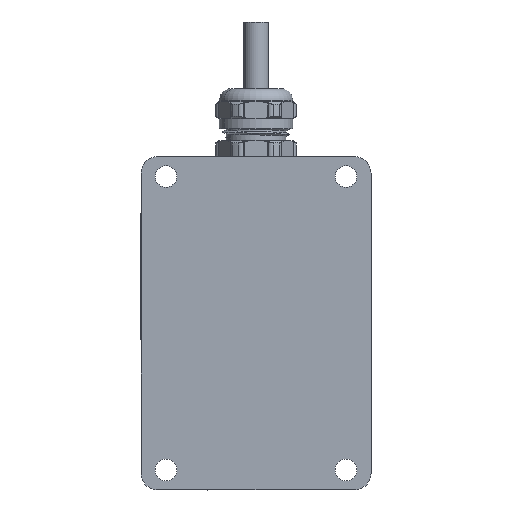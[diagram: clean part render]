
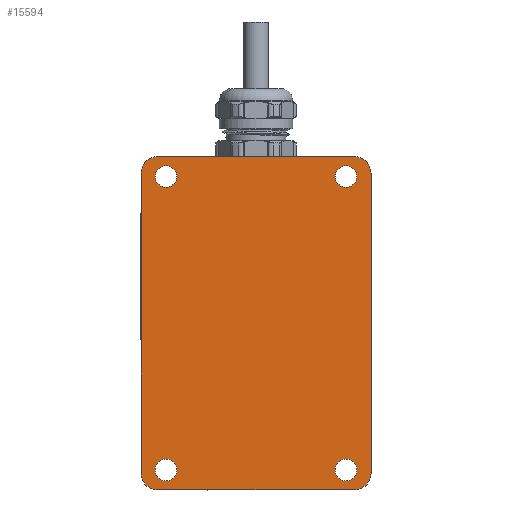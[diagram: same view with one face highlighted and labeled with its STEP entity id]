
A CAD part, front view. The second image highlights one B-rep face of the part: STEP entity #15594.
In plain terms, the highlighted planar face has unit normal (0, -1, 0).
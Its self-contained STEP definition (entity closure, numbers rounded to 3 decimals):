
#225 = VERTEX_POINT ( 'NONE', #19039 ) ;
#244 = ORIENTED_EDGE ( 'NONE', *, *, #6378, .T. ) ;
#253 = VERTEX_POINT ( 'NONE', #12921 ) ;
#463 = VERTEX_POINT ( 'NONE', #26951 ) ;
#688 = CARTESIAN_POINT ( 'NONE',  ( -27., -3., 47.25 ) ) ;
#712 = ORIENTED_EDGE ( 'NONE', *, *, #1375, .T. ) ;
#1023 = CARTESIAN_POINT ( 'NONE',  ( -27., -3., 44. ) ) ;
#1076 = VERTEX_POINT ( 'NONE', #9914 ) ;
#1235 = EDGE_CURVE ( 'NONE', #20839, #23333, #21232, .T. ) ;
#1267 = FACE_OUTER_BOUND ( 'NONE', #6906, .T. ) ;
#1375 = EDGE_CURVE ( 'NONE', #1905, #12542, #13140, .T. ) ;
#1400 = DIRECTION ( 'NONE',  ( 0., -1., 0. ) ) ;
#1722 = LINE ( 'NONE', #16086, #23639 ) ;
#1905 = VERTEX_POINT ( 'NONE', #7802 ) ;
#1988 = EDGE_CURVE ( 'NONE', #13080, #20238, #7053, .T. ) ;
#2179 = CARTESIAN_POINT ( 'NONE',  ( 27., -3., 44. ) ) ;
#2556 = AXIS2_PLACEMENT_3D ( 'NONE', #5513, #16365, #26910 ) ;
#2604 = CARTESIAN_POINT ( 'NONE',  ( 27., -3., 47.25 ) ) ;
#2915 = FACE_BOUND ( 'NONE', #12067, .T. ) ;
#2969 = VECTOR ( 'NONE', #22046, 1000. ) ;
#3121 = DIRECTION ( 'NONE',  ( 0., 1., 0. ) ) ;
#3413 = DIRECTION ( 'NONE',  ( -1., 0., 0. ) ) ;
#3449 = VERTEX_POINT ( 'NONE', #20069 ) ;
#3527 = EDGE_LOOP ( 'NONE', ( #7827, #11454 ) ) ;
#3649 = CARTESIAN_POINT ( 'NONE',  ( 34.5, -3., 45. ) ) ;
#3862 = VECTOR ( 'NONE', #22822, 1000. ) ;
#3870 = ORIENTED_EDGE ( 'NONE', *, *, #5811, .F. ) ;
#4103 = CIRCLE ( 'NONE', #27419, 5. ) ;
#4129 = DIRECTION ( 'NONE',  ( 0., 1., 0. ) ) ;
#4580 = AXIS2_PLACEMENT_3D ( 'NONE', #18093, #7959, #5393 ) ;
#4694 = AXIS2_PLACEMENT_3D ( 'NONE', #1023, #11325, #24128 ) ;
#4806 = CIRCLE ( 'NONE', #20506, 3.25 ) ;
#5040 = EDGE_CURVE ( 'NONE', #1076, #225, #1722, .T. ) ;
#5325 = CIRCLE ( 'NONE', #4694, 3.25 ) ;
#5393 = DIRECTION ( 'NONE',  ( 0., 0., 1. ) ) ;
#5464 = VERTEX_POINT ( 'NONE', #3649 ) ;
#5513 = CARTESIAN_POINT ( 'NONE',  ( -27., -3., -44. ) ) ;
#5666 = DIRECTION ( 'NONE',  ( 0., 0., 1. ) ) ;
#5811 = EDGE_CURVE ( 'NONE', #24678, #6841, #25583, .T. ) ;
#5982 = CARTESIAN_POINT ( 'NONE',  ( 29.5, -3., 45. ) ) ;
#6046 = EDGE_LOOP ( 'NONE', ( #18310, #22425 ) ) ;
#6259 = CARTESIAN_POINT ( 'NONE',  ( -27., -3., 44. ) ) ;
#6378 = EDGE_CURVE ( 'NONE', #12542, #1905, #23827, .T. ) ;
#6393 = AXIS2_PLACEMENT_3D ( 'NONE', #14674, #8062, #27546 ) ;
#6682 = AXIS2_PLACEMENT_3D ( 'NONE', #11124, #17576, #25821 ) ;
#6759 = EDGE_CURVE ( 'NONE', #463, #253, #23766, .T. ) ;
#6841 = VERTEX_POINT ( 'NONE', #27002 ) ;
#6906 = EDGE_LOOP ( 'NONE', ( #9152, #7539, #10498, #22487, #3870, #15288, #14047, #27182 ) ) ;
#7053 = CIRCLE ( 'NONE', #6393, 3.25 ) ;
#7539 = ORIENTED_EDGE ( 'NONE', *, *, #19583, .T. ) ;
#7802 = CARTESIAN_POINT ( 'NONE',  ( 27., -3., 40.75 ) ) ;
#7827 = ORIENTED_EDGE ( 'NONE', *, *, #1988, .T. ) ;
#7891 = CARTESIAN_POINT ( 'NONE',  ( -34.5, -3., -50. ) ) ;
#7921 = CARTESIAN_POINT ( 'NONE',  ( 27., -3., 44. ) ) ;
#7959 = DIRECTION ( 'NONE',  ( 0., -1., 0. ) ) ;
#8062 = DIRECTION ( 'NONE',  ( 0., 1., 0. ) ) ;
#8343 = DIRECTION ( 'NONE',  ( 0., 1., 0. ) ) ;
#8913 = ORIENTED_EDGE ( 'NONE', *, *, #19048, .T. ) ;
#9000 = PLANE ( 'NONE',  #6682 ) ;
#9006 = CARTESIAN_POINT ( 'NONE',  ( -27., -3., -40.75 ) ) ;
#9152 = ORIENTED_EDGE ( 'NONE', *, *, #5040, .F. ) ;
#9256 = EDGE_CURVE ( 'NONE', #5464, #6841, #26276, .T. ) ;
#9548 = CIRCLE ( 'NONE', #4580, 5. ) ;
#9592 = DIRECTION ( 'NONE',  ( 0., 1., 0. ) ) ;
#9850 = FACE_BOUND ( 'NONE', #3527, .T. ) ;
#9914 = CARTESIAN_POINT ( 'NONE',  ( 29.5, -3., -50. ) ) ;
#10021 = AXIS2_PLACEMENT_3D ( 'NONE', #11639, #13793, #5666 ) ;
#10163 = AXIS2_PLACEMENT_3D ( 'NONE', #2179, #8343, #17013 ) ;
#10451 = CARTESIAN_POINT ( 'NONE',  ( -29.5, -3., -45. ) ) ;
#10498 = ORIENTED_EDGE ( 'NONE', *, *, #23166, .F. ) ;
#10572 = CIRCLE ( 'NONE', #2556, 3.25 ) ;
#10652 = VERTEX_POINT ( 'NONE', #23819 ) ;
#11124 = CARTESIAN_POINT ( 'NONE',  ( 0., -3., 0. ) ) ;
#11273 = DIRECTION ( 'NONE',  ( 0., 0., -1. ) ) ;
#11325 = DIRECTION ( 'NONE',  ( 0., 1., 0. ) ) ;
#11454 = ORIENTED_EDGE ( 'NONE', *, *, #21898, .T. ) ;
#11639 = CARTESIAN_POINT ( 'NONE',  ( 27., -3., -44. ) ) ;
#11708 = DIRECTION ( 'NONE',  ( 0., 0., 1. ) ) ;
#12067 = EDGE_LOOP ( 'NONE', ( #8913, #12337 ) ) ;
#12122 = DIRECTION ( 'NONE',  ( 0., 0., 1. ) ) ;
#12337 = ORIENTED_EDGE ( 'NONE', *, *, #13673, .T. ) ;
#12542 = VERTEX_POINT ( 'NONE', #2604 ) ;
#12921 = CARTESIAN_POINT ( 'NONE',  ( -34.5, -3., 45. ) ) ;
#13080 = VERTEX_POINT ( 'NONE', #9006 ) ;
#13140 = CIRCLE ( 'NONE', #16116, 3.25 ) ;
#13169 = EDGE_CURVE ( 'NONE', #23333, #20839, #4806, .T. ) ;
#13673 = EDGE_CURVE ( 'NONE', #10652, #16146, #24036, .T. ) ;
#13793 = DIRECTION ( 'NONE',  ( 0., 1., 0. ) ) ;
#13902 = AXIS2_PLACEMENT_3D ( 'NONE', #5982, #24922, #12122 ) ;
#13972 = CARTESIAN_POINT ( 'NONE',  ( 29.5, -3., -45. ) ) ;
#14047 = ORIENTED_EDGE ( 'NONE', *, *, #6759, .F. ) ;
#14674 = CARTESIAN_POINT ( 'NONE',  ( -27., -3., -44. ) ) ;
#15288 = ORIENTED_EDGE ( 'NONE', *, *, #26409, .T. ) ;
#15594 = ADVANCED_FACE ( 'NONE', ( #22877, #2915, #24852, #9850, #1267 ), #9000, .F. ) ;
#15613 = CARTESIAN_POINT ( 'NONE',  ( 27., -3., -40.75 ) ) ;
#15817 = CARTESIAN_POINT ( 'NONE',  ( 27., -3., -44. ) ) ;
#16086 = CARTESIAN_POINT ( 'NONE',  ( 34.5, -3., -50. ) ) ;
#16116 = AXIS2_PLACEMENT_3D ( 'NONE', #7921, #9592, #11708 ) ;
#16146 = VERTEX_POINT ( 'NONE', #688 ) ;
#16365 = DIRECTION ( 'NONE',  ( 0., 1., 0. ) ) ;
#16419 = DIRECTION ( 'NONE',  ( 0., 0., 1. ) ) ;
#16628 = AXIS2_PLACEMENT_3D ( 'NONE', #13972, #1400, #16419 ) ;
#17013 = DIRECTION ( 'NONE',  ( 0., 0., 1. ) ) ;
#17362 = EDGE_LOOP ( 'NONE', ( #244, #712 ) ) ;
#17576 = DIRECTION ( 'NONE',  ( 0., 1., 0. ) ) ;
#17716 = CARTESIAN_POINT ( 'NONE',  ( -34.5, -3., 50. ) ) ;
#17948 = DIRECTION ( 'NONE',  ( 0., 0., 1. ) ) ;
#18093 = CARTESIAN_POINT ( 'NONE',  ( -29.5, -3., 45. ) ) ;
#18310 = ORIENTED_EDGE ( 'NONE', *, *, #13169, .T. ) ;
#19039 = CARTESIAN_POINT ( 'NONE',  ( -29.5, -3., -50. ) ) ;
#19048 = EDGE_CURVE ( 'NONE', #16146, #10652, #5325, .T. ) ;
#19239 = DIRECTION ( 'NONE',  ( 0., 0., 1. ) ) ;
#19411 = CARTESIAN_POINT ( 'NONE',  ( 34.5, -3., 50. ) ) ;
#19583 = EDGE_CURVE ( 'NONE', #1076, #3449, #19897, .T. ) ;
#19618 = CARTESIAN_POINT ( 'NONE',  ( -27., -3., -47.25 ) ) ;
#19766 = CARTESIAN_POINT ( 'NONE',  ( -29.5, -3., 50. ) ) ;
#19897 = CIRCLE ( 'NONE', #16628, 5. ) ;
#20069 = CARTESIAN_POINT ( 'NONE',  ( 34.5, -3., -45. ) ) ;
#20085 = AXIS2_PLACEMENT_3D ( 'NONE', #6259, #4129, #19239 ) ;
#20238 = VERTEX_POINT ( 'NONE', #19618 ) ;
#20506 = AXIS2_PLACEMENT_3D ( 'NONE', #15817, #3121, #17948 ) ;
#20839 = VERTEX_POINT ( 'NONE', #24907 ) ;
#21232 = CIRCLE ( 'NONE', #10021, 3.25 ) ;
#21898 = EDGE_CURVE ( 'NONE', #20238, #13080, #10572, .T. ) ;
#22046 = DIRECTION ( 'NONE',  ( 1., 0., 0. ) ) ;
#22425 = ORIENTED_EDGE ( 'NONE', *, *, #1235, .T. ) ;
#22487 = ORIENTED_EDGE ( 'NONE', *, *, #9256, .T. ) ;
#22822 = DIRECTION ( 'NONE',  ( 0., 0., 1. ) ) ;
#22877 = FACE_BOUND ( 'NONE', #17362, .T. ) ;
#23166 = EDGE_CURVE ( 'NONE', #5464, #3449, #26770, .T. ) ;
#23333 = VERTEX_POINT ( 'NONE', #15613 ) ;
#23530 = EDGE_CURVE ( 'NONE', #463, #225, #4103, .T. ) ;
#23639 = VECTOR ( 'NONE', #3413, 1000. ) ;
#23766 = LINE ( 'NONE', #7891, #3862 ) ;
#23819 = CARTESIAN_POINT ( 'NONE',  ( -27., -3., 40.75 ) ) ;
#23827 = CIRCLE ( 'NONE', #10163, 3.25 ) ;
#24036 = CIRCLE ( 'NONE', #20085, 3.25 ) ;
#24128 = DIRECTION ( 'NONE',  ( 0., 0., 1. ) ) ;
#24678 = VERTEX_POINT ( 'NONE', #19766 ) ;
#24852 = FACE_BOUND ( 'NONE', #6046, .T. ) ;
#24907 = CARTESIAN_POINT ( 'NONE',  ( 27., -3., -47.25 ) ) ;
#24922 = DIRECTION ( 'NONE',  ( 0., -1., 0. ) ) ;
#25299 = DIRECTION ( 'NONE',  ( 0., 0., 1. ) ) ;
#25583 = LINE ( 'NONE', #17716, #2969 ) ;
#25821 = DIRECTION ( 'NONE',  ( 0., 0., 1. ) ) ;
#26276 = CIRCLE ( 'NONE', #13902, 5. ) ;
#26409 = EDGE_CURVE ( 'NONE', #24678, #253, #9548, .T. ) ;
#26413 = VECTOR ( 'NONE', #11273, 1000. ) ;
#26770 = LINE ( 'NONE', #19411, #26413 ) ;
#26910 = DIRECTION ( 'NONE',  ( 0., 0., 1. ) ) ;
#26951 = CARTESIAN_POINT ( 'NONE',  ( -34.5, -3., -45. ) ) ;
#27002 = CARTESIAN_POINT ( 'NONE',  ( 29.5, -3., 50. ) ) ;
#27182 = ORIENTED_EDGE ( 'NONE', *, *, #23530, .T. ) ;
#27419 = AXIS2_PLACEMENT_3D ( 'NONE', #10451, #27542, #25299 ) ;
#27542 = DIRECTION ( 'NONE',  ( 0., -1., 0. ) ) ;
#27546 = DIRECTION ( 'NONE',  ( 0., 0., 1. ) ) ;
